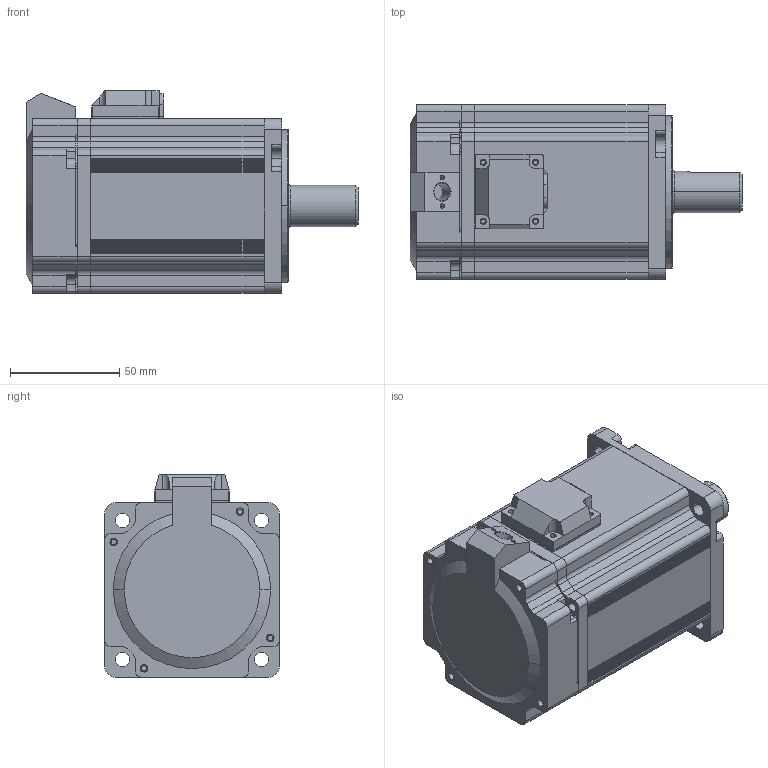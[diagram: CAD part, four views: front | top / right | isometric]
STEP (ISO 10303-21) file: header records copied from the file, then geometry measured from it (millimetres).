
FILE_DESCRIPTION (( 'STEP AP203' ), '1' );
FILE_NAME ('MS6S-80CM(CS)30B2-20P7.STEP', '2020-09-09T07:09:34', ( '' ), ( '' ), 'SwSTEP 2.0', 'SolidWorks 2016', '' );
FILE_SCHEMA (( 'CONFIG_CONTROL_DESIGN' ));
Products named in the file (1): MS6S-80CM(CS)30B2-20P7
Bounding box: 152 x 80 x 92.8 mm (x, y, z)
Surface area: 73893.5 mm2 (no closed solid volume)
Topology: 0 solids, 185 shells, 1888 faces, 6404 edges, 4646 vertices
Faces by surface type: cylinder 1171, plane 612, cone 34, sphere 28, bspline 26, torus 17
Entity records: 71506 total; most frequent: CARTESIAN_POINT 14260, DIRECTION 13010, ORIENTED_EDGE 10418, EDGE_CURVE 6404, AXIS2_PLACEMENT_3D 4834, VERTEX_POINT 4646, VECTOR 3342, LINE 3342
